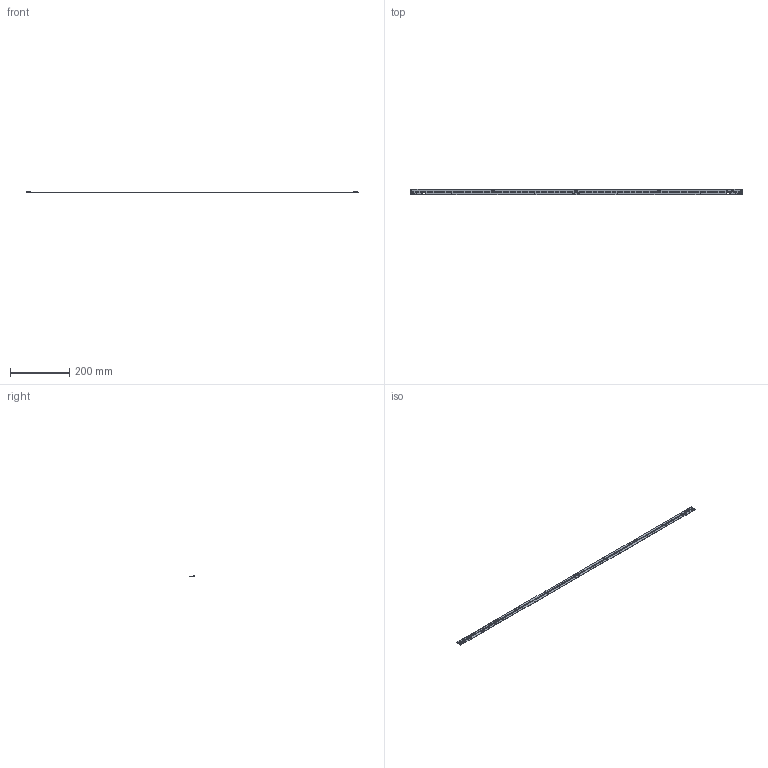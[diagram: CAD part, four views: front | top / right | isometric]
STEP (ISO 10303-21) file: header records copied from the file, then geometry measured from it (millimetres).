
FILE_DESCRIPTION(('Creo Elements/Direct Modeling STEP Export'),'2;1');
FILE_NAME('3D-Model__WU-M-703-TC-B2B.stp','2023-03-28T14:09:54',(''),(''),'PTC Creo Elements/Direct Modeling STEP processor for AP214 (Solid Model)','PTC Creo Elements/Direct Modeling 19.0E 27-Jun-2016 (C) Parametric Technology GmbH','');
FILE_SCHEMA(('AUTOMOTIVE_DESIGN { 1 0 10303 214 1 1 1 1 }'));
Length unit declared in the file: millimetre
Products named in the file (265): PLOCA_WU-M-703_99-11980_PRT_PRT.PRT; PLOCA_WU-M-703_99-12610_ASM_ASM.ASM; PLOCA_WU-M-703_98-18460_PRT_PRT.PRT; PLOCA_WU-M-703_98-18940_ASM_ASM.ASM; PLOCA_WU-M-703_97-27690_PRT_PRT.PRT; PLOCA_WU-M-703_97-28240_ASM_ASM.ASM; PLOCA_WU-M-703_96-30430_PRT_PRT.PRT; PLOCA_WU-M-703_96-30820_ASM_ASM.ASM; PLOCA_WU-M-703_95-37510_PRT_PRT.PRT; PLOCA_WU-M-703_95-38010_ASM_ASM.ASM; PLOCA_WU-M-703_94-56160_PRT_PRT.PRT; PLOCA_WU-M-703_94-56950_ASM_ASM.ASM; PLOCA_WU-M-703_93-66460_PRT_PRT.PRT; PLOCA_WU-M-703_93-67030_ASM_ASM.ASM; PLOCA_WU-M-703_92-71700_PRT_PRT.PRT; PLOCA_WU-M-703_92-72150_ASM_ASM.ASM; PLOCA_WU-M-703_91-77180_PRT_PRT.PRT; PLOCA_WU-M-703_91-77640_ASM_ASM.ASM; PLOCA_WU-M-703_90-84290_PRT_PRT.PRT; PLOCA_WU-M-703_90-84790_ASM_ASM.ASM; PLOCA_WU-M-703_9-92660_PRT_PRT.PRT; PLOCA_WU-M-703_9-93190_ASM_ASM.ASM; PLOCA_WU-M-703_89-103560_PRT_PR.PRT; PLOCA_WU-M-703_89-104150_ASM_AS.ASM; PLOCA_WU-M-703_88-118540_PRT_PR.PRT; PLOCA_WU-M-703_88-119230_ASM_AS.ASM; PLOCA_WU-M-703_87-127540_PRT_PR.PRT; PLOCA_WU-M-703_87-128080_ASM_AS.ASM; PLOCA_WU-M-703_86-136390_PRT_PR.PRT; PLOCA_WU-M-703_86-136930_ASM_AS.ASM; PLOCA_WU-M-703_85-148960_PRT_PR.PRT; PLOCA_WU-M-703_85-149590_ASM_AS.ASM; PLOCA_WU-M-703_84-151780_PRT_PR.PRT; PLOCA_WU-M-703_84-152170_ASM_AS.ASM; PLOCA_WU-M-703_83-166560_PRT_PR.PRT; PLOCA_WU-M-703_83-167250_ASM_AS.ASM; PLOCA_WU-M-703_82-179240_PRT_PR.PRT; PLOCA_WU-M-703_82-179870_ASM_AS.ASM; PLOCA_WU-M-703_81-191820_PRT_PR.PRT; PLOCA_WU-M-703_81-192450_ASM_AS.ASM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
Assembly tree (403 placements, depth 5):
  3D-MODEL__WU-M-703-TC_-_COPY.stp
    3D-MODEL__WU-M-703-TC_STP.ASM
      P1_PRT.PRT
      CON1_ASM.ASM
        2060-451_998-404_PRT_PRT_6_1.PRT
        2060-451_998-404_PRT_PRT_6.PRT.6
      3D-MODEL_WU-M-703-TC_STP_ASM.ASM
        LED1_ASM.ASM
          LED01_PRT.PRT  x140
        PLOCA_WU-M-703-1255670_ASM_ASM.ASM
          PLOCA_WU-M-703-1253840_PRT_PRT.PRT
        PLOCA_WU-M-703_1-1192490_ASM_AS.ASM
          PLOCA_WU-M-703_1-1192070_PRT_PR.PRT
        PLOCA_WU-M-703_10-1188660_ASM_A.ASM
          PLOCA_WU-M-703_10-1188120_PRT_P.PRT
        PLOCA_WU-M-703_100-1179810_ASM_.ASM
          PLOCA_WU-M-703_100-1179240_PRT_.PRT
        PLOCA_WU-M-703_101-1169710_ASM_.ASM
          PLOCA_WU-M-703_101-1169240_PRT_.PRT
        PLOCA_WU-M-703_102-1163890_ASM_.ASM
          PLOCA_WU-M-703_102-1163430_PRT_.PRT
        PLOCA_WU-M-703_103-1158400_ASM_.ASM
          PLOCA_WU-M-703_103-1157860_PRT_.PRT
        PLOCA_WU-M-703_104-1149550_ASM_.ASM
          PLOCA_WU-M-703_104-1149060_PRT_.PRT
        PLOCA_WU-M-703_105-1142790_ASM_.ASM
          PLOCA_WU-M-703_105-1142200_PRT_.PRT
        PLOCA_WU-M-703_106-1131870_ASM_.ASM
          PLOCA_WU-M-703_106-1131270_PRT_.PRT
        PLOCA_WU-M-703_107-1120520_ASM_.ASM
          PLOCA_WU-M-703_107-1119890_PRT_.PRT
        PLOCA_WU-M-703_108-1107940_ASM_.ASM
          PLOCA_WU-M-703_108-1107360_PRT_.PRT
        PLOCA_WU-M-703_109-1097410_ASM_.ASM
          PLOCA_WU-M-703_109-1096780_PRT_.PRT
        PLOCA_WU-M-703_11-1084830_ASM_A.ASM
          PLOCA_WU-M-703_11-1084290_PRT_P.PRT
        PLOCA_WU-M-703_110-1075980_ASM_.ASM
          PLOCA_WU-M-703_110-1075590_PRT_.PRT
        PLOCA_WU-M-703_111-1073400_ASM_.ASM
          PLOCA_WU-M-703_111-1072800_PRT_.PRT
        PLOCA_WU-M-703_112-1062050_ASM_.ASM
          PLOCA_WU-M-703_112-1061270_PRT_.PRT
        PLOCA_WU-M-703_113-1043520_ASM_.ASM
          PLOCA_WU-M-703_113-1042990_PRT_.PRT
        PLOCA_WU-M-703_114-1035120_ASM_.ASM
          PLOCA_WU-M-703_114-1034520_PRT_.PRT
        PLOCA_WU-M-703_115-1023770_ASM_.ASM
          PLOCA_WU-M-703_115-1023170_PRT_.PRT
        PLOCA_WU-M-703_116-1012420_ASM_.ASM
          PLOCA_WU-M-703_116-1011940_PRT_.PRT
        PLOCA_WU-M-703_117-1006090_ASM_.ASM
          PLOCA_WU-M-703_117-1005670_PRT_.PRT
        PLOCA_WU-M-703_118-1002260_ASM_.ASM
          PLOCA_WU-M-703_118-1001760_PRT_.PRT
        PLOCA_WU-M-703_119-995110_ASM_A.ASM
          PLOCA_WU-M-703_119-994650_PRT_P.PRT
        PLOCA_WU-M-703_12-989620_ASM_AS.ASM
          PLOCA_WU-M-703_12-989020_PRT_PR.PRT
        PLOCA_WU-M-703_120-978270_ASM_A.ASM
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Bounding box: 1119 x 20 x 5.5 mm (x, y, z)
Volume: 23179.2 mm3; surface area: 51267.5 mm2
Topology: 270 solids, 270 shells, 13948 faces, 38390 edges, 25404 vertices
Faces by surface type: plane 10865, cylinder 3079, sphere 4
Entity records: 135943 total; most frequent: CARTESIAN_POINT 18724, DIRECTION 17958, ORIENTED_EDGE 17836, EDGE_CURVE 8918, VECTOR 7168, LINE 7168, VERTEX_POINT 5944, AXIS2_PLACEMENT_3D 5395
